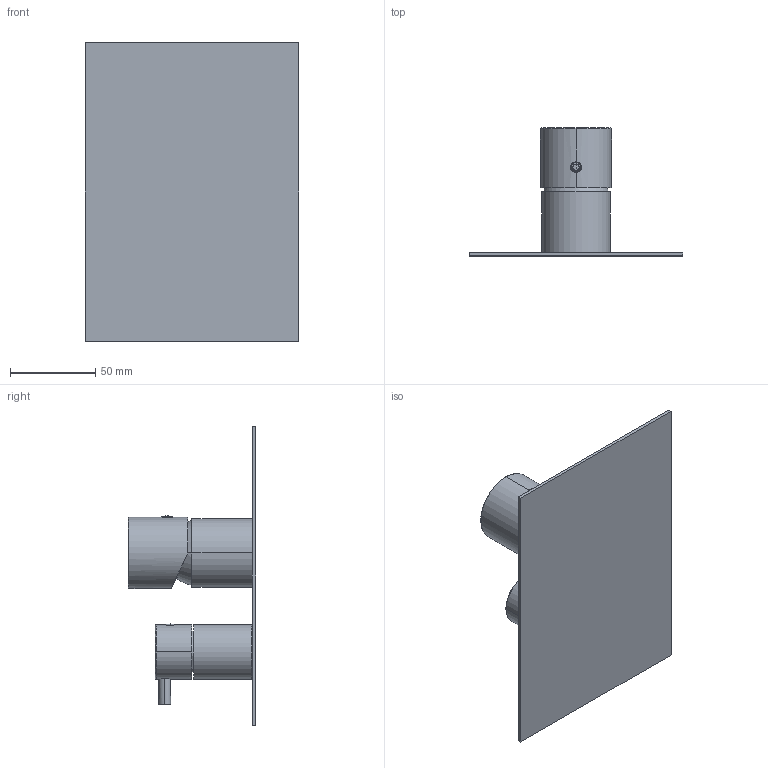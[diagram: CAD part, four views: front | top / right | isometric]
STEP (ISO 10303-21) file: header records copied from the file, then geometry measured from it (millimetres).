
FILE_DESCRIPTION((''),'2;1');
FILE_NAME('78541S_SW0001','2020-09-23T11:09:27',('volponeff'),(''),'CREO PARAMETRIC BY PTC INC, 2018100','CREO PARAMETRIC BY PTC INC, 2018100','');
FILE_SCHEMA(('CONFIG_CONTROL_DESIGN'));
Length unit declared in the file: millimetre
Products named in the file (1): 78541S_SW0001
Bounding box: 125 x 74.9 x 175 mm (x, y, z)
Volume: 142694.1 mm3; surface area: 74288.6 mm2
Topology: 2 solids, 4 shells, 177 faces, 448 edges, 281 vertices
Faces by surface type: plane 82, cylinder 52, cone 23, torus 14, sphere 4, bspline 2
Entity records: 5818 total; most frequent: CARTESIAN_POINT 1487, DIRECTION 922, ORIENTED_EDGE 880, EDGE_CURVE 440, AXIS2_PLACEMENT_3D 344, VERTEX_POINT 281, VECTOR 234, LINE 234
